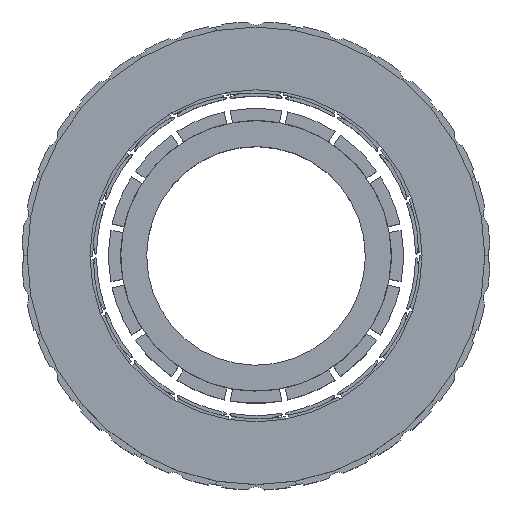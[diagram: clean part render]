
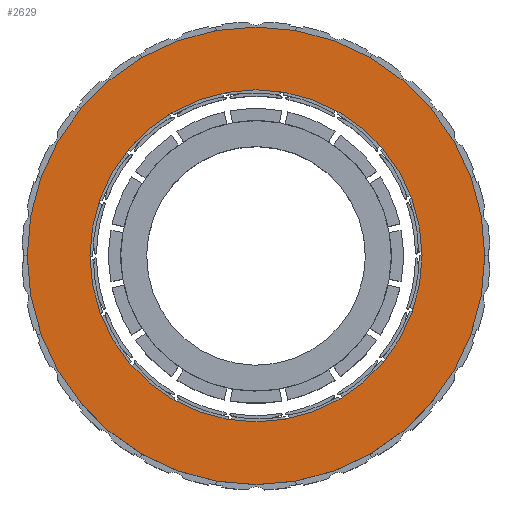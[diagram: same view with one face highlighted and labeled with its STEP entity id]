
A CAD part, top view. The second image highlights one B-rep face of the part: STEP entity #2629.
In plain terms, the highlighted planar face has unit normal (0, 0, 1).
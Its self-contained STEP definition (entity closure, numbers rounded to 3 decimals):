
#46 = CIRCLE ( 'NONE', #1069, 28.25 ) ;
#79 = CARTESIAN_POINT ( 'NONE',  ( 0., 0., 5. ) ) ;
#298 = CARTESIAN_POINT ( 'NONE',  ( 0., 0., 5. ) ) ;
#338 = DIRECTION ( 'NONE',  ( 0., 0., 1. ) ) ;
#366 = FACE_BOUND ( 'NONE', #972, .T. ) ;
#417 = PLANE ( 'NONE',  #4879 ) ;
#448 = DIRECTION ( 'NONE',  ( 1., 0., 0. ) ) ;
#481 = VERTEX_POINT ( 'NONE', #4134 ) ;
#716 = CARTESIAN_POINT ( 'NONE',  ( 0., 0., 5. ) ) ;
#969 = DIRECTION ( 'NONE',  ( 0., 0., 1. ) ) ;
#972 = EDGE_LOOP ( 'NONE', ( #1207, #1634 ) ) ;
#1008 = AXIS2_PLACEMENT_3D ( 'NONE', #4037, #338, #1665 ) ;
#1069 = AXIS2_PLACEMENT_3D ( 'NONE', #2093, #3022, #448 ) ;
#1123 = DIRECTION ( 'NONE',  ( 0., 0., 1. ) ) ;
#1125 = DIRECTION ( 'NONE',  ( 1., 0., 0. ) ) ;
#1207 = ORIENTED_EDGE ( 'NONE', *, *, #4813, .F. ) ;
#1373 = CARTESIAN_POINT ( 'NONE',  ( 28.25, 0., 5. ) ) ;
#1554 = VERTEX_POINT ( 'NONE', #3700 ) ;
#1634 = ORIENTED_EDGE ( 'NONE', *, *, #4370, .F. ) ;
#1665 = DIRECTION ( 'NONE',  ( 1., 0., 0. ) ) ;
#1756 = DIRECTION ( 'NONE',  ( 1., 0., 0. ) ) ;
#1855 = ORIENTED_EDGE ( 'NONE', *, *, #2761, .T. ) ;
#1945 = AXIS2_PLACEMENT_3D ( 'NONE', #298, #3587, #1125 ) ;
#1979 = DIRECTION ( 'NONE',  ( 1., 0., 0. ) ) ;
#2040 = CIRCLE ( 'NONE', #1945, 28.25 ) ;
#2093 = CARTESIAN_POINT ( 'NONE',  ( 0., 0., 5. ) ) ;
#2629 = ADVANCED_FACE ( 'NONE', ( #4835, #366 ), #417, .T. ) ;
#2730 = EDGE_LOOP ( 'NONE', ( #1855, #3461 ) ) ;
#2761 = EDGE_CURVE ( 'NONE', #1554, #2878, #46, .T. ) ;
#2878 = VERTEX_POINT ( 'NONE', #1373 ) ;
#3022 = DIRECTION ( 'NONE',  ( 0., 0., 1. ) ) ;
#3245 = CIRCLE ( 'NONE', #3766, 20.5 ) ;
#3461 = ORIENTED_EDGE ( 'NONE', *, *, #4695, .T. ) ;
#3587 = DIRECTION ( 'NONE',  ( 0., 0., 1. ) ) ;
#3589 = VERTEX_POINT ( 'NONE', #4959 ) ;
#3598 = CIRCLE ( 'NONE', #1008, 20.5 ) ;
#3700 = CARTESIAN_POINT ( 'NONE',  ( -28.25, 0., 5. ) ) ;
#3766 = AXIS2_PLACEMENT_3D ( 'NONE', #79, #969, #1756 ) ;
#4037 = CARTESIAN_POINT ( 'NONE',  ( 0., 0., 5. ) ) ;
#4134 = CARTESIAN_POINT ( 'NONE',  ( -20.5, 0., 5. ) ) ;
#4370 = EDGE_CURVE ( 'NONE', #3589, #481, #3245, .T. ) ;
#4695 = EDGE_CURVE ( 'NONE', #2878, #1554, #2040, .T. ) ;
#4813 = EDGE_CURVE ( 'NONE', #481, #3589, #3598, .T. ) ;
#4835 = FACE_OUTER_BOUND ( 'NONE', #2730, .T. ) ;
#4879 = AXIS2_PLACEMENT_3D ( 'NONE', #716, #1123, #1979 ) ;
#4959 = CARTESIAN_POINT ( 'NONE',  ( 20.5, 0., 5. ) ) ;
